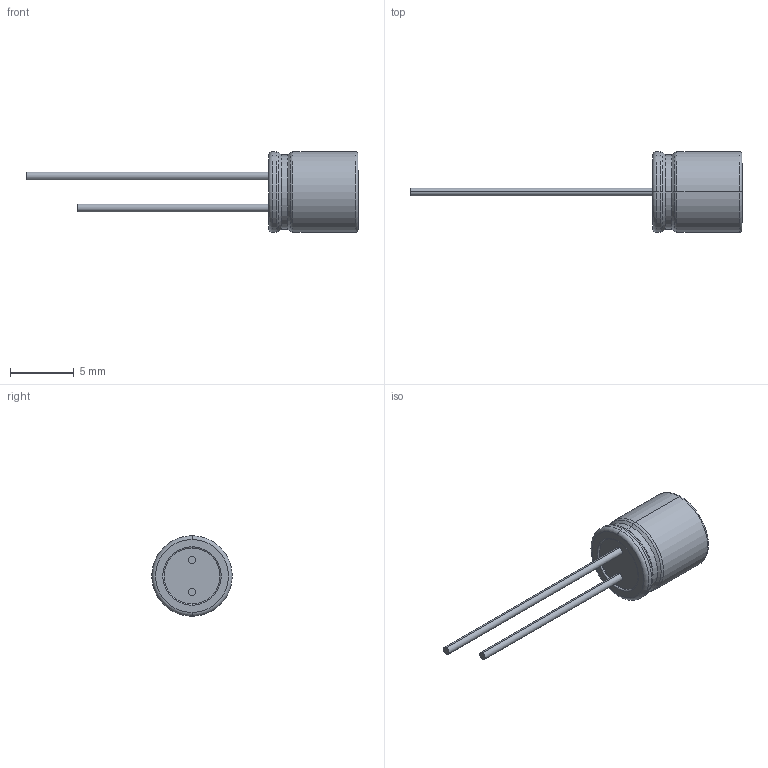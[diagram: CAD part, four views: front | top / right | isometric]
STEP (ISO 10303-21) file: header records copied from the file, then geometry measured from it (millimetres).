
FILE_DESCRIPTION((''),'2;1');
FILE_NAME('POLYMER-RADIAL63X7','2020-06-03T',('xy'),(''),'PRO/ENGINEER BY PARAMETRIC TECHNOLOGY CORPORATION, 2009380','PRO/ENGINEER BY PARAMETRIC TECHNOLOGY CORPORATION, 2009380','');
FILE_SCHEMA(('CONFIG_CONTROL_DESIGN'));
Length unit declared in the file: millimetre
Products named in the file (1): POLYMER-RADIAL63X7
Bounding box: 26 x 6.3 x 6.3 mm (x, y, z)
Volume: 220.5 mm3; surface area: 265.9 mm2
Topology: 1 solids, 1 shells, 415 faces, 1146 edges, 758 vertices
Faces by surface type: plane 387, cylinder 13, torus 11, cone 4
Entity records: 13005 total; most frequent: CARTESIAN_POINT 2328, ORIENTED_EDGE 2292, DIRECTION 2020, EDGE_CURVE 1146, VECTOR 1098, LINE 1098, VERTEX_POINT 758, AXIS2_PLACEMENT_3D 461
